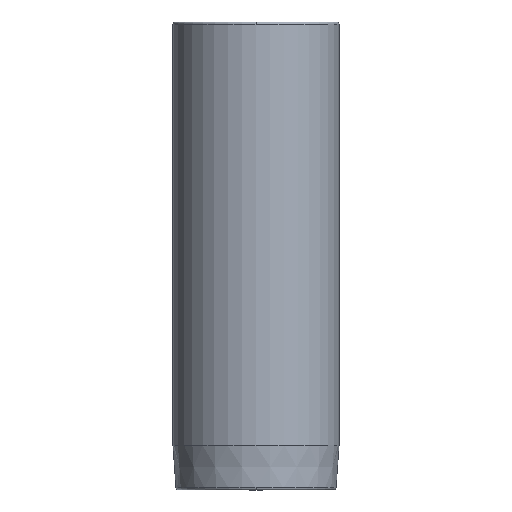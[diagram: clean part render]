
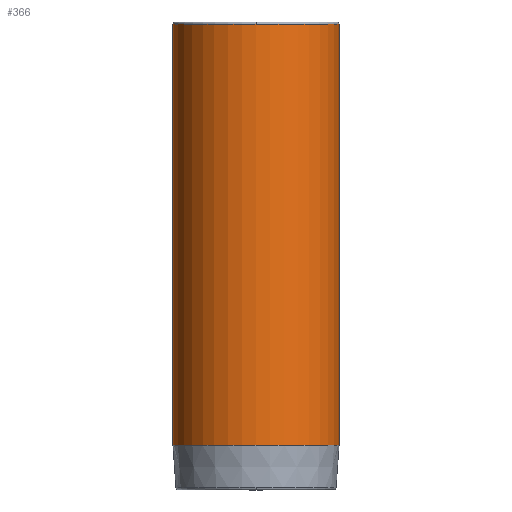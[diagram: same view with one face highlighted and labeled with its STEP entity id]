
A CAD part, front view. The second image highlights one B-rep face of the part: STEP entity #366.
In plain terms, the highlighted cylindrical face has radius 18.625 mm (diameter 37.25 mm), a partial arc.
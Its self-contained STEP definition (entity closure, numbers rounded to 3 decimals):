
#271=CARTESIAN_POINT('',(0.0,-18.625,54.5));
#272=VERTEX_POINT('',#271);
#298=CARTESIAN_POINT('',(-18.625,0.,54.5));
#299=VERTEX_POINT('',#298);
#307=CARTESIAN_POINT('',(0.0,0.,54.5));
#308=DIRECTION('',(0.0,0.0,1.0));
#309=DIRECTION('',(1.0,0.0,0.0));
#310=AXIS2_PLACEMENT_3D('',#307,#308,#309);
#311=CIRCLE('',#310,18.625);
#312=EDGE_CURVE('',#299,#272,#311,.T.);
#317=CARTESIAN_POINT('',(0.0,0.,7.267));
#318=DIRECTION('',(0.0,0.,1.0));
#319=DIRECTION('',(1.0,0.0,0.0));
#320=AXIS2_PLACEMENT_3D('',#317,#318,#319);
#321=CYLINDRICAL_SURFACE('',#320,18.625);
#322=CARTESIAN_POINT('',(18.625,0.,54.5));
#323=VERTEX_POINT('',#322);
#324=CARTESIAN_POINT('',(18.625,0.,-39.965));
#325=VERTEX_POINT('',#324);
#326=CARTESIAN_POINT('',(18.625,0.,54.5));
#327=DIRECTION('',(0.0,0.0,-1.0));
#328=VECTOR('',#327,94.465);
#329=LINE('',#326,#328);
#330=EDGE_CURVE('',#323,#325,#329,.T.);
#331=ORIENTED_EDGE('',*,*,#330,.F.);
#332=CARTESIAN_POINT('',(0.0,0.,54.5));
#333=DIRECTION('',(0.0,0.0,1.0));
#334=DIRECTION('',(1.0,0.0,0.0));
#335=AXIS2_PLACEMENT_3D('',#332,#333,#334);
#336=CIRCLE('',#335,18.625);
#337=EDGE_CURVE('',#272,#323,#336,.T.);
#338=ORIENTED_EDGE('',*,*,#337,.F.);
#339=ORIENTED_EDGE('',*,*,#312,.F.);
#340=CARTESIAN_POINT('',(-18.625,0.,-39.965));
#341=VERTEX_POINT('',#340);
#342=CARTESIAN_POINT('',(-18.625,0.,54.5));
#343=DIRECTION('',(0.0,0.0,-1.0));
#344=VECTOR('',#343,94.465);
#345=LINE('',#342,#344);
#346=EDGE_CURVE('',#299,#341,#345,.T.);
#347=ORIENTED_EDGE('',*,*,#346,.T.);
#348=CARTESIAN_POINT('',(0.0,-18.625,-39.965));
#349=VERTEX_POINT('',#348);
#350=CARTESIAN_POINT('',(0.0,0.,-39.965));
#351=DIRECTION('',(0.0,0.0,1.0));
#352=DIRECTION('',(1.0,0.0,0.0));
#353=AXIS2_PLACEMENT_3D('',#350,#351,#352);
#354=CIRCLE('',#353,18.625);
#355=EDGE_CURVE('',#341,#349,#354,.T.);
#356=ORIENTED_EDGE('',*,*,#355,.T.);
#357=CARTESIAN_POINT('',(0.0,0.,-39.965));
#358=DIRECTION('',(0.0,0.0,1.0));
#359=DIRECTION('',(1.0,0.0,0.0));
#360=AXIS2_PLACEMENT_3D('',#357,#358,#359);
#361=CIRCLE('',#360,18.625);
#362=EDGE_CURVE('',#349,#325,#361,.T.);
#363=ORIENTED_EDGE('',*,*,#362,.T.);
#364=EDGE_LOOP('',(#331,#338,#339,#347,#356,#363));
#365=FACE_OUTER_BOUND('',#364,.T.);
#366=ADVANCED_FACE('',(#365),#321,.T.);
